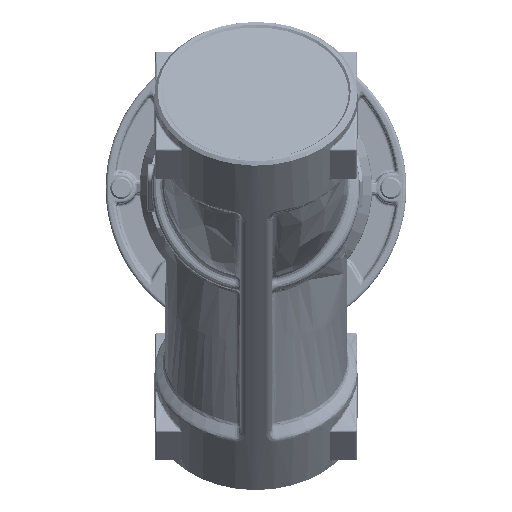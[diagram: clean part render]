
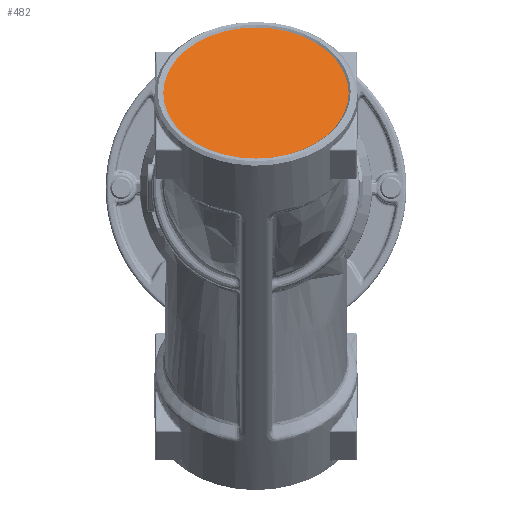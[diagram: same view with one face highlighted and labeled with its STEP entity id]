
A CAD part, front view. The second image highlights one B-rep face of the part: STEP entity #482.
In plain terms, the highlighted planar face has unit normal (0, -0.707, 0.707) as drawn and (1, 0, 0) by its records, which use the part's own axes.
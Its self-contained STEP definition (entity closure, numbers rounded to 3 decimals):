
#482=ADVANCED_FACE('',(#3511),#3510,.T.);
#3510=PLANE('',#20233);
#3511=FACE_OUTER_BOUND('',#20234,.T.);
#20230=CARTESIAN_POINT('',(43.35,-68.77,-61.788));
#20231=DIRECTION('',(1.,0.,0.));
#20232=DIRECTION('',(0.,1.,0.));
#20233=AXIS2_PLACEMENT_3D('',#20230,#20231,#20232);
#20234=EDGE_LOOP('',(#53284,#53285));
#53284=ORIENTED_EDGE('',*,*,#59824,.T.);
#53285=ORIENTED_EDGE('',*,*,#59825,.T.);
#59824=EDGE_CURVE('',#66809,#66810,#66811,.T.);
#59825=EDGE_CURVE('',#66810,#66809,#66817,.T.);
#66809=VERTEX_POINT('',#89201);
#66810=VERTEX_POINT('',#89202);
#66811=CIRCLE('',#89206,29.9);
#66817=CIRCLE('',#89210,29.9);
#89201=CARTESIAN_POINT('',(43.35,29.9,0.));
#89202=CARTESIAN_POINT('',(43.35,-29.9,0.));
#89203=CARTESIAN_POINT('',(43.35,0.,0.));
#89204=DIRECTION('',(1.,0.,0.));
#89205=DIRECTION('',(0.,1.,0.));
#89206=AXIS2_PLACEMENT_3D('',#89203,#89204,#89205);
#89207=CARTESIAN_POINT('',(43.35,0.,0.));
#89208=DIRECTION('',(1.,0.,0.));
#89209=DIRECTION('',(0.,1.,0.));
#89210=AXIS2_PLACEMENT_3D('',#89207,#89208,#89209);
